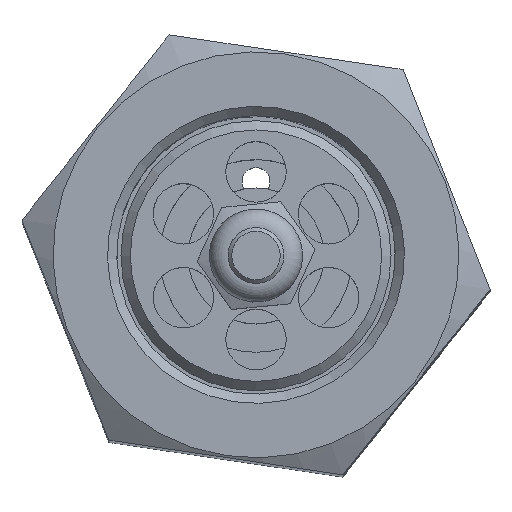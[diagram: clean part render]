
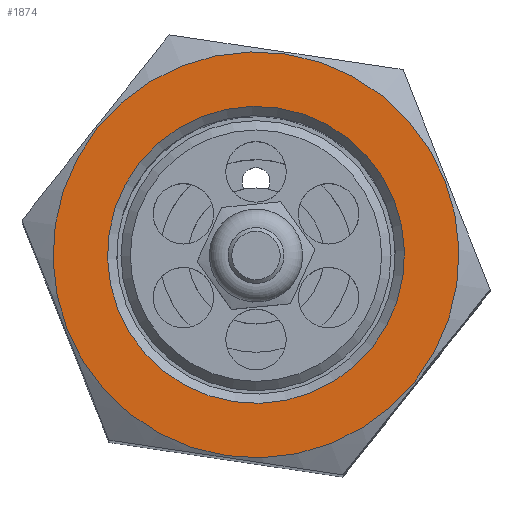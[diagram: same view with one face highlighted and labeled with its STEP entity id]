
A CAD part, top view. The second image highlights one B-rep face of the part: STEP entity #1874.
In plain terms, the highlighted planar face has unit normal (0, 0, 1).
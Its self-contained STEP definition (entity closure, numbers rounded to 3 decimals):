
#112=PLANE('',#1973);
#232=ORIENTED_EDGE('',*,*,#546,.T.);
#233=ORIENTED_EDGE('',*,*,#545,.F.);
#545=EDGE_CURVE('',#705,#705,#811,.T.);
#546=EDGE_CURVE('',#706,#706,#812,.F.);
#705=VERTEX_POINT('',#2664);
#706=VERTEX_POINT('',#2667);
#811=CIRCLE('',#1972,10.9);
#812=CIRCLE('',#1974,7.975);
#918=EDGE_LOOP('',(#232));
#919=EDGE_LOOP('',(#233));
#1066=FACE_BOUND('',#918,.T.);
#1067=FACE_BOUND('',#919,.T.);
#1874=ADVANCED_FACE('',(#1066,#1067),#112,.T.);
#1972=AXIS2_PLACEMENT_3D('',#2663,#2178,#2179);
#1973=AXIS2_PLACEMENT_3D('',#2665,#2180,#2181);
#1974=AXIS2_PLACEMENT_3D('',#2666,#2182,#2183);
#2178=DIRECTION('',(0.,0.,-1.));
#2179=DIRECTION('',(0.622,0.783,0.));
#2180=DIRECTION('',(0.,0.,1.));
#2181=DIRECTION('',(-0.93,-0.368,0.));
#2182=DIRECTION('',(0.,0.,1.));
#2183=DIRECTION('',(-0.93,-0.368,0.));
#2663=CARTESIAN_POINT('',(0.,0.,-13.779));
#2664=CARTESIAN_POINT('',(6.776,8.538,-13.779));
#2665=CARTESIAN_POINT('',(0.,0.,-13.779));
#2666=CARTESIAN_POINT('',(0.,0.,-13.779));
#2667=CARTESIAN_POINT('',(-7.417,-2.931,-13.779));
